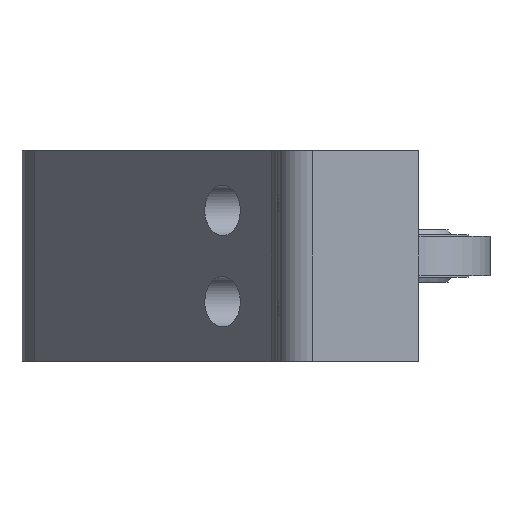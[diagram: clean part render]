
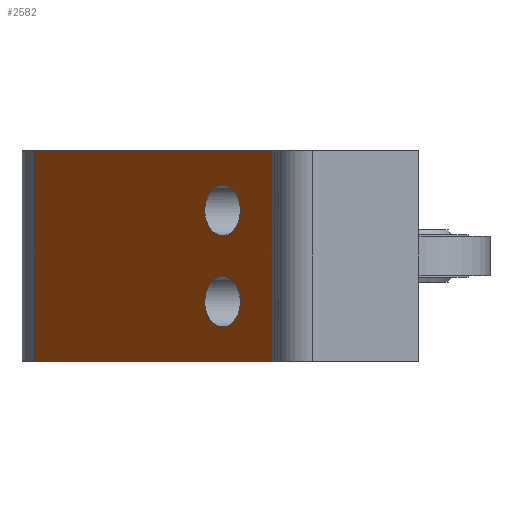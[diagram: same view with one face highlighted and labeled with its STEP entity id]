
A CAD part, left-side view. The second image highlights one B-rep face of the part: STEP entity #2582.
In plain terms, the highlighted planar face has unit normal (-0.574, 0.819, 0).
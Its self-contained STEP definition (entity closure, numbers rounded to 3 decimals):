
#45 = VECTOR ( 'NONE', #886, 1000. ) ;
#55 = CARTESIAN_POINT ( 'NONE',  ( 45.974, 38.611, 3.683 ) ) ;
#133 = LINE ( 'NONE', #2220, #2391 ) ;
#151 = EDGE_CURVE ( 'NONE', #823, #2862, #621, .T. ) ;
#228 = EDGE_CURVE ( 'NONE', #2502, #1772, #1341, .T. ) ;
#238 = EDGE_CURVE ( 'NONE', #1054, #1697, #133, .T. ) ;
#243 = CARTESIAN_POINT ( 'NONE',  ( 36.83, 32.208, 3.683 ) ) ;
#307 = CARTESIAN_POINT ( 'NONE',  ( 85.377, 66.201, -19.05 ) ) ;
#398 = CARTESIAN_POINT ( 'NONE',  ( 36.83, 32.208, -3.683 ) ) ;
#426 = CARTESIAN_POINT ( 'NONE',  ( 24.213, 23.373, -19.05 ) ) ;
#431 = CARTESIAN_POINT ( 'NONE',  ( 45.974, 38.611, -12.827 ) ) ;
#434 = FACE_BOUND ( 'NONE', #2826, .T. ) ;
#621 =( BOUNDED_CURVE ( )  B_SPLINE_CURVE ( 3, ( #2526, #964, #1409, #740 ),
 .UNSPECIFIED., .F., .T. ) 
 B_SPLINE_CURVE_WITH_KNOTS ( ( 4, 4 ),
 ( 4.712, 7.854 ),
 .UNSPECIFIED. ) 
 CURVE ( )  GEOMETRIC_REPRESENTATION_ITEM ( )  RATIONAL_B_SPLINE_CURVE ( ( 1., 0.333, 0.333, 1. ) ) 
 REPRESENTATION_ITEM ( '' )  );
#671 = EDGE_CURVE ( 'NONE', #1305, #1697, #693, .T. ) ;
#693 = LINE ( 'NONE', #1553, #45 ) ;
#716 = CARTESIAN_POINT ( 'NONE',  ( 45.974, 38.611, 12.827 ) ) ;
#740 = CARTESIAN_POINT ( 'NONE',  ( 36.83, 32.208, -12.827 ) ) ;
#789 = DIRECTION ( 'NONE',  ( -0.574, 0.819, 0. ) ) ;
#823 = VERTEX_POINT ( 'NONE', #398 ) ;
#851 = CARTESIAN_POINT ( 'NONE',  ( 24.213, 23.373, 19.05 ) ) ;
#886 = DIRECTION ( 'NONE',  ( -0.819, -0.574, 0. ) ) ;
#930 = CARTESIAN_POINT ( 'NONE',  ( 36.83, 32.208, 3.683 ) ) ;
#960 = FACE_BOUND ( 'NONE', #1886, .T. ) ;
#964 = CARTESIAN_POINT ( 'NONE',  ( 27.686, 25.806, -3.683 ) ) ;
#985 = CARTESIAN_POINT ( 'NONE',  ( 36.83, 32.208, 12.827 ) ) ;
#1035 = LINE ( 'NONE', #1899, #1543 ) ;
#1054 = VERTEX_POINT ( 'NONE', #426 ) ;
#1243 =( BOUNDED_CURVE ( )  B_SPLINE_CURVE ( 3, ( #1757, #431, #2666, #1335 ),
 .UNSPECIFIED., .F., .T. ) 
 B_SPLINE_CURVE_WITH_KNOTS ( ( 4, 4 ),
 ( 1.571, 4.712 ),
 .UNSPECIFIED. ) 
 CURVE ( )  GEOMETRIC_REPRESENTATION_ITEM ( )  RATIONAL_B_SPLINE_CURVE ( ( 1., 0.333, 0.333, 1. ) ) 
 REPRESENTATION_ITEM ( '' )  );
#1305 = VERTEX_POINT ( 'NONE', #2786 ) ;
#1335 = CARTESIAN_POINT ( 'NONE',  ( 36.83, 32.208, -3.683 ) ) ;
#1341 =( BOUNDED_CURVE ( )  B_SPLINE_CURVE ( 3, ( #1793, #2461, #1359, #243 ),
 .UNSPECIFIED., .F., .T. ) 
 B_SPLINE_CURVE_WITH_KNOTS ( ( 4, 4 ),
 ( 4.712, 7.854 ),
 .UNSPECIFIED. ) 
 CURVE ( )  GEOMETRIC_REPRESENTATION_ITEM ( )  RATIONAL_B_SPLINE_CURVE ( ( 1., 0.333, 0.333, 1. ) ) 
 REPRESENTATION_ITEM ( '' )  );
#1342 = ORIENTED_EDGE ( 'NONE', *, *, #2082, .T. ) ;
#1359 = CARTESIAN_POINT ( 'NONE',  ( 27.686, 25.806, 3.683 ) ) ;
#1409 = CARTESIAN_POINT ( 'NONE',  ( 27.686, 25.806, -12.827 ) ) ;
#1458 = ORIENTED_EDGE ( 'NONE', *, *, #151, .T. ) ;
#1543 = VECTOR ( 'NONE', #2550, 1000. ) ;
#1553 = CARTESIAN_POINT ( 'NONE',  ( 85.377, 66.201, 19.05 ) ) ;
#1561 = EDGE_CURVE ( 'NONE', #1678, #1305, #1586, .T. ) ;
#1586 = LINE ( 'NONE', #1652, #2127 ) ;
#1652 = CARTESIAN_POINT ( 'NONE',  ( 85.377, 66.201, -3.556 ) ) ;
#1677 = CARTESIAN_POINT ( 'NONE',  ( 24.213, 23.373, -3.556 ) ) ;
#1678 = VERTEX_POINT ( 'NONE', #307 ) ;
#1697 = VERTEX_POINT ( 'NONE', #851 ) ;
#1727 = ORIENTED_EDGE ( 'NONE', *, *, #228, .T. ) ;
#1757 = CARTESIAN_POINT ( 'NONE',  ( 36.83, 32.208, -12.827 ) ) ;
#1772 = VERTEX_POINT ( 'NONE', #2617 ) ;
#1793 = CARTESIAN_POINT ( 'NONE',  ( 36.83, 32.208, 12.827 ) ) ;
#1809 = EDGE_LOOP ( 'NONE', ( #2663, #2435, #2627, #2692 ) ) ;
#1836 = CARTESIAN_POINT ( 'NONE',  ( 36.83, 32.208, -12.827 ) ) ;
#1886 = EDGE_LOOP ( 'NONE', ( #2629, #1727 ) ) ;
#1899 = CARTESIAN_POINT ( 'NONE',  ( 85.377, 66.201, -19.05 ) ) ;
#2082 = EDGE_CURVE ( 'NONE', #2862, #823, #1243, .T. ) ;
#2127 = VECTOR ( 'NONE', #2775, 1000. ) ;
#2172 =( BOUNDED_CURVE ( )  B_SPLINE_CURVE ( 3, ( #930, #55, #716, #2275 ),
 .UNSPECIFIED., .F., .F. ) 
 B_SPLINE_CURVE_WITH_KNOTS ( ( 4, 4 ),
 ( 1.571, 4.712 ),
 .UNSPECIFIED. ) 
 CURVE ( )  GEOMETRIC_REPRESENTATION_ITEM ( )  RATIONAL_B_SPLINE_CURVE ( ( 1., 0.333, 0.333, 1. ) ) 
 REPRESENTATION_ITEM ( '' )  );
#2220 = CARTESIAN_POINT ( 'NONE',  ( 24.213, 23.373, -3.556 ) ) ;
#2230 = DIRECTION ( 'NONE',  ( 0., 0., 1. ) ) ;
#2275 = CARTESIAN_POINT ( 'NONE',  ( 36.83, 32.208, 12.827 ) ) ;
#2330 = DIRECTION ( 'NONE',  ( -0.819, -0.574, 0. ) ) ;
#2391 = VECTOR ( 'NONE', #2230, 1000. ) ;
#2409 = AXIS2_PLACEMENT_3D ( 'NONE', #1677, #789, #2330 ) ;
#2435 = ORIENTED_EDGE ( 'NONE', *, *, #671, .F. ) ;
#2461 = CARTESIAN_POINT ( 'NONE',  ( 27.686, 25.806, 12.827 ) ) ;
#2502 = VERTEX_POINT ( 'NONE', #985 ) ;
#2526 = CARTESIAN_POINT ( 'NONE',  ( 36.83, 32.208, -3.683 ) ) ;
#2550 = DIRECTION ( 'NONE',  ( -0.819, -0.574, 0. ) ) ;
#2566 = EDGE_CURVE ( 'NONE', #1678, #1054, #1035, .T. ) ;
#2582 = ADVANCED_FACE ( 'NONE', ( #434, #2667, #960 ), #2790, .T. ) ;
#2617 = CARTESIAN_POINT ( 'NONE',  ( 36.83, 32.208, 3.683 ) ) ;
#2627 = ORIENTED_EDGE ( 'NONE', *, *, #1561, .F. ) ;
#2629 = ORIENTED_EDGE ( 'NONE', *, *, #2859, .T. ) ;
#2663 = ORIENTED_EDGE ( 'NONE', *, *, #238, .T. ) ;
#2666 = CARTESIAN_POINT ( 'NONE',  ( 45.974, 38.611, -3.683 ) ) ;
#2667 = FACE_OUTER_BOUND ( 'NONE', #1809, .T. ) ;
#2692 = ORIENTED_EDGE ( 'NONE', *, *, #2566, .T. ) ;
#2775 = DIRECTION ( 'NONE',  ( 0., 0., 1. ) ) ;
#2786 = CARTESIAN_POINT ( 'NONE',  ( 85.377, 66.201, 19.05 ) ) ;
#2790 = PLANE ( 'NONE',  #2409 ) ;
#2826 = EDGE_LOOP ( 'NONE', ( #1342, #1458 ) ) ;
#2859 = EDGE_CURVE ( 'NONE', #1772, #2502, #2172, .T. ) ;
#2862 = VERTEX_POINT ( 'NONE', #1836 ) ;
